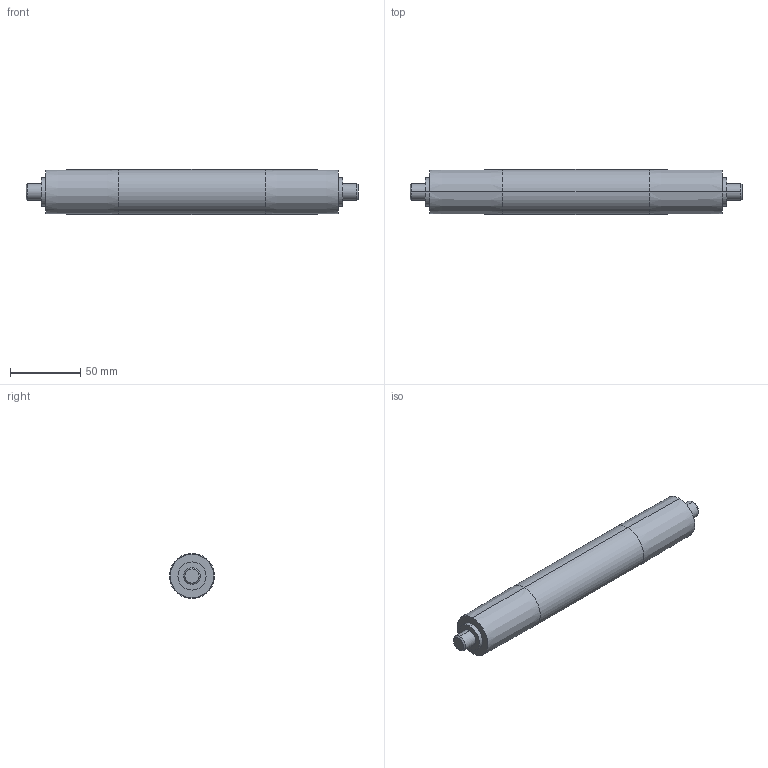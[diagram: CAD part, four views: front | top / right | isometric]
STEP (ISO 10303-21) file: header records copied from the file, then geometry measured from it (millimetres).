
FILE_DESCRIPTION (( 'STEP AP214' ), '1' );
FILE_NAME ('084.030.135.STEP', '2021-02-05T15:42:57', ( '' ), ( '' ), 'SwSTEP 2.0', 'SolidWorks 2018', '' );
FILE_SCHEMA (( 'AUTOMOTIVE_DESIGN' ));
Length unit declared in the file: millimetre
Products named in the file (1): 084.030.135
Bounding box: 236 x 32 x 32 mm (x, y, z)
Volume: 169034.4 mm3; surface area: 23416.7 mm2
Topology: 1 solids, 1 shells, 24 faces, 46 edges, 28 vertices
Faces by surface type: cylinder 10, cone 8, plane 6
Entity records: 648 total; most frequent: DIRECTION 124, CARTESIAN_POINT 99, ORIENTED_EDGE 92, AXIS2_PLACEMENT_3D 53, EDGE_CURVE 46, EDGE_LOOP 28, CIRCLE 28, VERTEX_POINT 28
